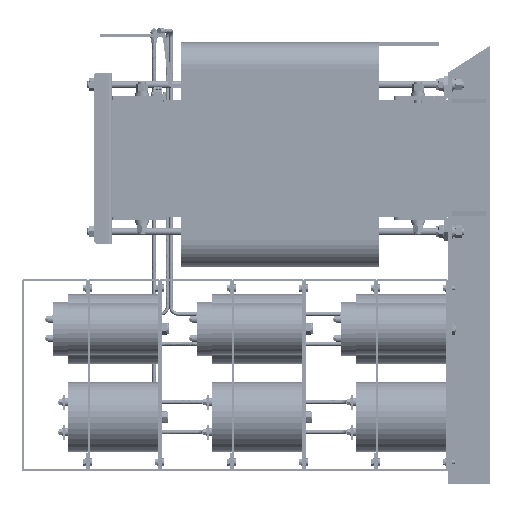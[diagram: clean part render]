
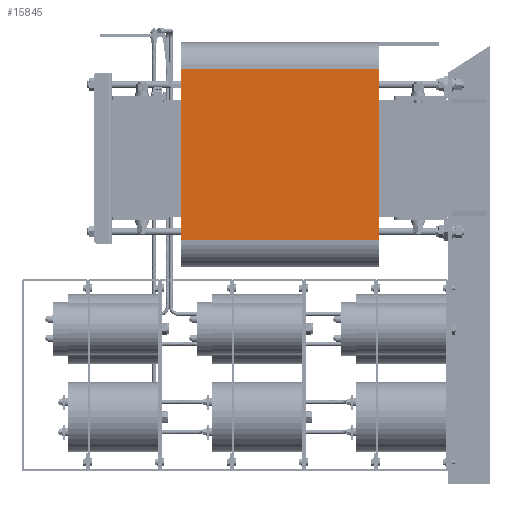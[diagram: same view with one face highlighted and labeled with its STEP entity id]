
A CAD part, left-side view. The second image highlights one B-rep face of the part: STEP entity #15845.
In plain terms, the highlighted planar face has unit normal (-1, 0, 0).
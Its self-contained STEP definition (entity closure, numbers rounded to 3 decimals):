
#15845=ADVANCED_FACE('',(#29960),#29962,.F.);
#29960=FACE_BOUND('',#29961,.T.);
#29961=EDGE_LOOP('',(#58274,#58275,#58276,#58277));
#29962=PLANE('',#29963);
#29963=AXIS2_PLACEMENT_3D('',#29964,#29965,#29966);
#29964=CARTESIAN_POINT('',(-102.5,181.5,165.));
#29965=DIRECTION('',(1.,0.,0.));
#29966=DIRECTION('',(0.,1.,0.));
#58274=ORIENTED_EDGE('',*,*,#65682,.T.);
#58275=ORIENTED_EDGE('',*,*,#65698,.T.);
#58276=ORIENTED_EDGE('',*,*,#65668,.F.);
#58277=ORIENTED_EDGE('',*,*,#65699,.T.);
#65668=EDGE_CURVE('',#69594,#69596,#69597,.T.);
#65682=EDGE_CURVE('',#69624,#69622,#69625,.T.);
#65698=EDGE_CURVE('',#69622,#69596,#69651,.T.);
#65699=EDGE_CURVE('',#69594,#69624,#69652,.T.);
#69594=VERTEX_POINT('',#76439);
#69596=VERTEX_POINT('',#76444);
#69597=LINE('',#76445,#76446);
#69622=VERTEX_POINT('',#76502);
#69624=VERTEX_POINT('',#76507);
#69625=LINE('',#76508,#76509);
#69651=LINE('',#76572,#76573);
#69652=LINE('',#76575,#76576);
#76439=CARTESIAN_POINT('',(-102.5,136.5,165.));
#76444=CARTESIAN_POINT('',(-102.5,-148.5,165.));
#76445=CARTESIAN_POINT('',(-102.5,136.5,165.));
#76446=VECTOR('',#76447,1.);
#76447=DIRECTION('',(0.,-1.,0.));
#76502=CARTESIAN_POINT('',(-102.5,-148.5,-165.));
#76507=CARTESIAN_POINT('',(-102.5,136.5,-165.));
#76508=CARTESIAN_POINT('',(-102.5,136.5,-165.));
#76509=VECTOR('',#76510,1.);
#76510=DIRECTION('',(0.,-1.,0.));
#76572=CARTESIAN_POINT('',(-102.5,-148.5,-165.));
#76573=VECTOR('',#76574,1.);
#76574=DIRECTION('',(0.,0.,1.));
#76575=CARTESIAN_POINT('',(-102.5,136.5,165.));
#76576=VECTOR('',#76577,1.);
#76577=DIRECTION('',(0.,0.,-1.));
